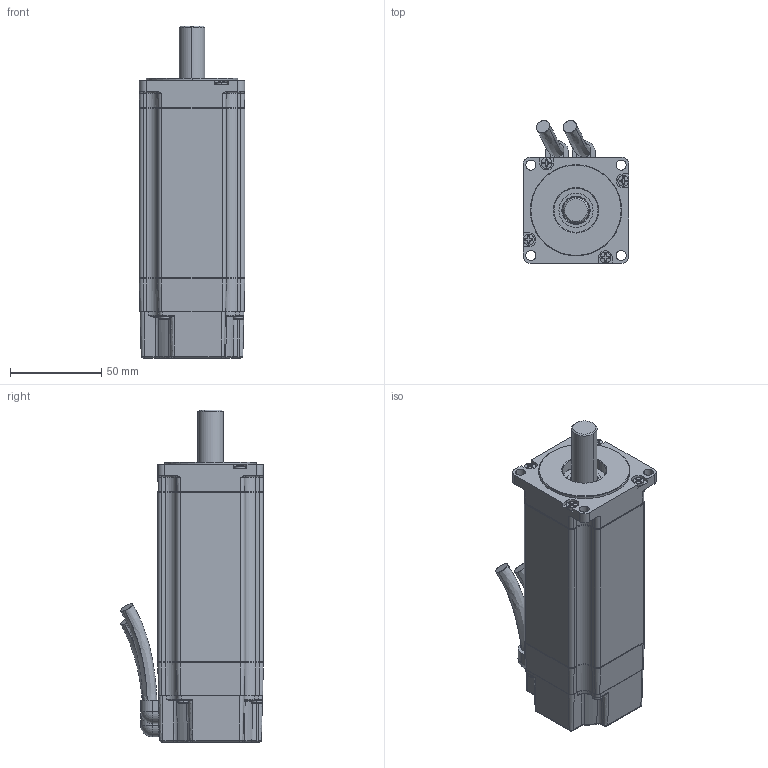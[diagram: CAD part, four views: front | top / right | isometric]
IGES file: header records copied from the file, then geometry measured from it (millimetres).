
Start section:  PTC IGES file: vlm23g.igs
Global section: file name: vlm23g.igs; native system: Pro/ENGINEER by Parametric Technology Corporation; preprocessor: 2006510; author: Ray.Dobbins; organization: Unknown; date: 20110726.093739; units: inch
Bounding box: 57.91 x 78.26 x 181.77 mm (x, y, z)
Surface area: 47390.9 mm2 (no closed solid volume)
Topology: 0 solids, 0 shells, 504 faces, 2528 edges, 2524 vertices
Faces by surface type: bspline 253, revolution 251
